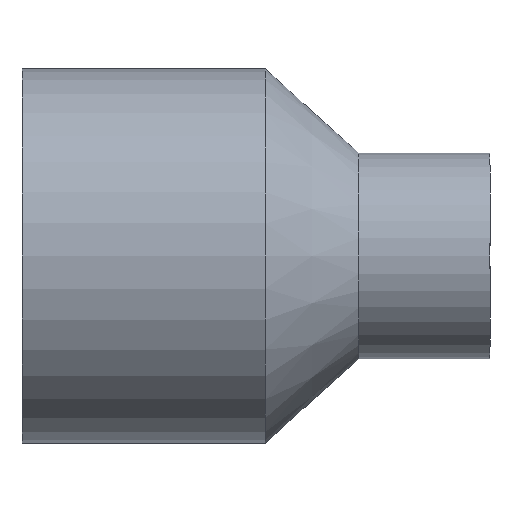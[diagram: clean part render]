
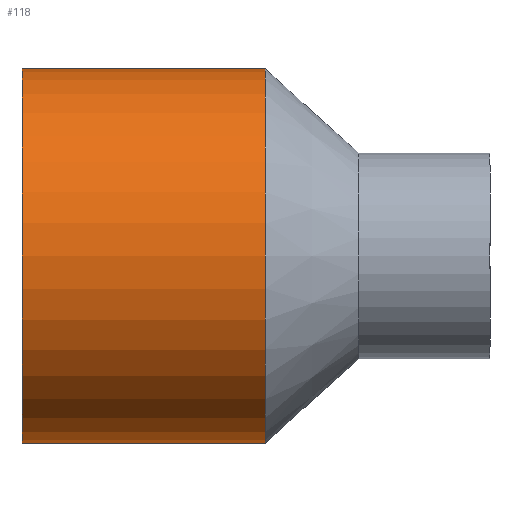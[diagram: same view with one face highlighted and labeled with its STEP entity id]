
A CAD part, front view. The second image highlights one B-rep face of the part: STEP entity #118.
In plain terms, the highlighted cylindrical face has radius 20 mm (diameter 40 mm), a full revolution.
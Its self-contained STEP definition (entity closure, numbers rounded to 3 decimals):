
#18=CYLINDRICAL_SURFACE('',#134,20.);
#25=FACE_BOUND('',#49,.T.);
#35=FACE_OUTER_BOUND('',#48,.T.);
#48=EDGE_LOOP('',(#98));
#49=EDGE_LOOP('',(#99));
#65=CIRCLE('',#133,20.);
#66=CIRCLE('',#135,20.);
#75=VERTEX_POINT('',#199);
#76=VERTEX_POINT('',#202);
#85=EDGE_CURVE('',#75,#75,#65,.T.);
#86=EDGE_CURVE('',#76,#76,#66,.T.);
#98=ORIENTED_EDGE('',*,*,#85,.T.);
#99=ORIENTED_EDGE('',*,*,#86,.F.);
#118=ADVANCED_FACE('',(#35,#25),#18,.T.);
#133=AXIS2_PLACEMENT_3D('',#200,#161,#162);
#134=AXIS2_PLACEMENT_3D('',#201,#163,#164);
#135=AXIS2_PLACEMENT_3D('',#203,#165,#166);
#161=DIRECTION('center_axis',(-1.,0.,0.));
#162=DIRECTION('ref_axis',(0.,0.,1.));
#163=DIRECTION('center_axis',(-1.,0.,0.));
#164=DIRECTION('ref_axis',(0.,-1.,0.));
#165=DIRECTION('center_axis',(-1.,0.,0.));
#166=DIRECTION('ref_axis',(0.,0.,1.));
#199=CARTESIAN_POINT('',(1.,-20.,0.));
#200=CARTESIAN_POINT('Origin',(1.,0.,0.));
#201=CARTESIAN_POINT('Origin',(-12.,0.,0.));
#202=CARTESIAN_POINT('',(-25.,-20.,0.));
#203=CARTESIAN_POINT('Origin',(-25.,0.,0.));
